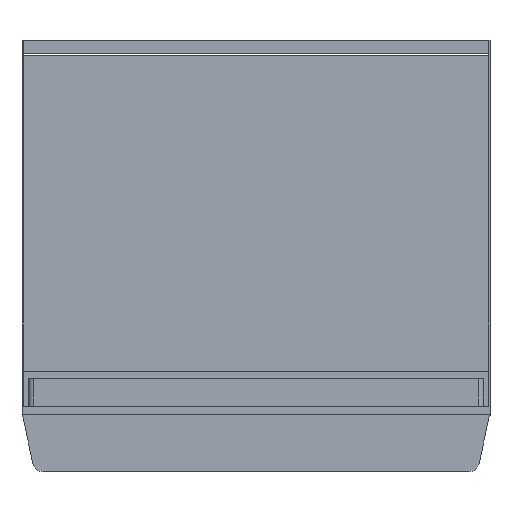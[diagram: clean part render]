
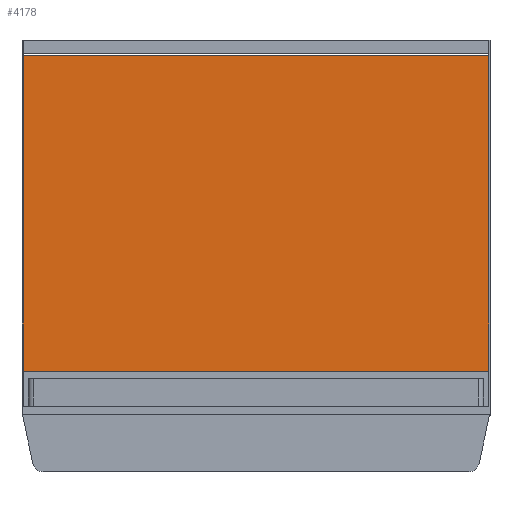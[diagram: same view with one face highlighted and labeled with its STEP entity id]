
A CAD part, top view. The second image highlights one B-rep face of the part: STEP entity #4178.
In plain terms, the highlighted planar face has unit normal (0, 0, 1) as drawn and (0, 1, 0) by its records, which use the part's own axes.
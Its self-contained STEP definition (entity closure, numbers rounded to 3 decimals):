
#4178=ADVANCED_FACE('',(#6925),#5870,.T.);
#5870=PLANE('',#32758);
#6925=FACE_OUTER_BOUND('',#8631,.T.);
#8631=EDGE_LOOP('',(#11247,#11248,#11249,#11250));
#11247=ORIENTED_EDGE('',*,*,#22904,.T.);
#11248=ORIENTED_EDGE('',*,*,#22911,.T.);
#11249=ORIENTED_EDGE('',*,*,#22912,.T.);
#11250=ORIENTED_EDGE('',*,*,#22913,.T.);
#19728=VERTEX_POINT('',#43878);
#19729=VERTEX_POINT('',#43879);
#19734=VERTEX_POINT('',#43893);
#19735=VERTEX_POINT('',#43895);
#22904=EDGE_CURVE('',#19728,#19729,#27187,.T.);
#22911=EDGE_CURVE('',#19729,#19734,#27194,.T.);
#22912=EDGE_CURVE('',#19734,#19735,#27195,.T.);
#22913=EDGE_CURVE('',#19735,#19728,#27196,.T.);
#27187=LINE('',#43877,#29806);
#27194=LINE('',#43892,#29813);
#27195=LINE('',#43894,#29814);
#27196=LINE('',#43896,#29815);
#29806=VECTOR('',#35052,1.);
#29813=VECTOR('',#35063,1.);
#29814=VECTOR('',#35064,1.);
#29815=VECTOR('',#35065,1.);
#32758=AXIS2_PLACEMENT_3D('',#43897,#35066,#35067);
#35052=DIRECTION('',(-1.,0.,0.));
#35063=DIRECTION('',(0.,0.,1.));
#35064=DIRECTION('',(1.,0.,0.));
#35065=DIRECTION('',(0.,0.,-1.));
#35066=DIRECTION('',(0.,1.,0.));
#35067=DIRECTION('',(-1.,0.,0.));
#43877=CARTESIAN_POINT('',(1091.2,35.8,-793.8));
#43878=CARTESIAN_POINT('',(1096.2,35.8,-793.8));
#43879=CARTESIAN_POINT('',(-1.8,35.8,-793.8));
#43892=CARTESIAN_POINT('',(-1.8,35.8,-793.8));
#43893=CARTESIAN_POINT('',(-1.8,35.8,-51.8));
#43894=CARTESIAN_POINT('',(0.2,35.8,-51.8));
#43895=CARTESIAN_POINT('',(1096.2,35.8,-51.8));
#43896=CARTESIAN_POINT('',(1096.2,35.8,-81.8));
#43897=CARTESIAN_POINT('',(1091.2,35.8,-81.8));
